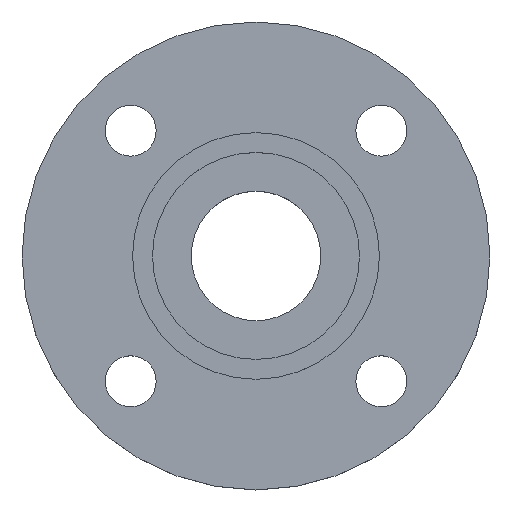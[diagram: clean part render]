
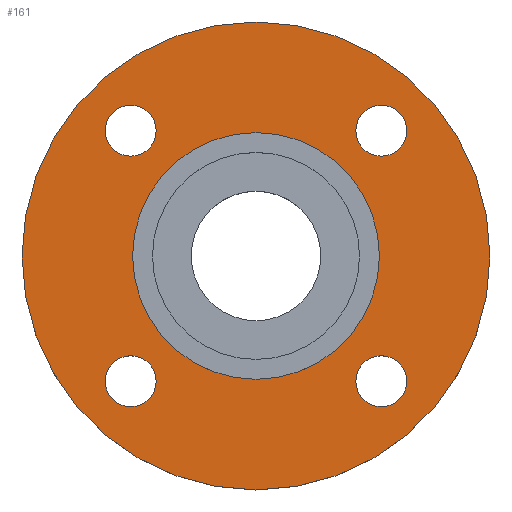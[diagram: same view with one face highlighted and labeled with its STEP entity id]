
A CAD part, top view. The second image highlights one B-rep face of the part: STEP entity #161.
In plain terms, the highlighted planar face has unit normal (0, 0, 1).
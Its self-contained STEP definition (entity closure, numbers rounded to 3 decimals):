
#1 = DIRECTION ( 'NONE',  ( 0., 0., 1. ) ) ;
#7 = AXIS2_PLACEMENT_3D ( 'NONE', #748, #1, #12 ) ;
#12 = DIRECTION ( 'NONE',  ( 1., 0., 0. ) ) ;
#16 = CIRCLE ( 'NONE', #471, 9. ) ;
#29 = EDGE_CURVE ( 'NONE', #448, #441, #451, .T. ) ;
#30 = DIRECTION ( 'NONE',  ( 1., 0., 0. ) ) ;
#33 = DIRECTION ( 'NONE',  ( 0., 0., -1. ) ) ;
#35 = CARTESIAN_POINT ( 'NONE',  ( 44.194, 44.194, -4.5 ) ) ;
#37 = CIRCLE ( 'NONE', #39, 82.5 ) ;
#39 = AXIS2_PLACEMENT_3D ( 'NONE', #768, #769, #771 ) ;
#49 = CARTESIAN_POINT ( 'NONE',  ( 53.194, -44.194, -4.5 ) ) ;
#53 = CIRCLE ( 'NONE', #399, 9. ) ;
#61 = EDGE_CURVE ( 'NONE', #615, #439, #680, .T. ) ;
#67 = CARTESIAN_POINT ( 'NONE',  ( -35.194, 44.194, -4.5 ) ) ;
#69 = DIRECTION ( 'NONE',  ( -1., 0., 0. ) ) ;
#71 = DIRECTION ( 'NONE',  ( 0., 0., -1. ) ) ;
#72 = CARTESIAN_POINT ( 'NONE',  ( 0., 0., -4.5 ) ) ;
#74 = AXIS2_PLACEMENT_3D ( 'NONE', #683, #684, #686 ) ;
#76 = EDGE_CURVE ( 'NONE', #535, #620, #551, .T. ) ;
#82 = CARTESIAN_POINT ( 'NONE',  ( 53.194, 44.194, -4.5 ) ) ;
#85 = CIRCLE ( 'NONE', #234, 82.5 ) ;
#87 = CARTESIAN_POINT ( 'NONE',  ( 43.5, 0., -4.5 ) ) ;
#88 = CARTESIAN_POINT ( 'NONE',  ( 35.194, -44.194, -4.5 ) ) ;
#111 = DIRECTION ( 'NONE',  ( 1., 0., 0. ) ) ;
#112 = AXIS2_PLACEMENT_3D ( 'NONE', #387, #395, #390 ) ;
#113 = DIRECTION ( 'NONE',  ( 0., 0., -1. ) ) ;
#114 = CARTESIAN_POINT ( 'NONE',  ( 44.194, -44.194, -4.5 ) ) ;
#116 = CARTESIAN_POINT ( 'NONE',  ( 82.5, 0., -4.5 ) ) ;
#117 = AXIS2_PLACEMENT_3D ( 'NONE', #35, #33, #30 ) ;
#153 = CIRCLE ( 'NONE', #117, 9. ) ;
#161 = ADVANCED_FACE ( 'NONE', ( #738, #739, #743, #744, #745, #746 ), #747, .T. ) ;
#162 = CARTESIAN_POINT ( 'NONE',  ( 35.194, 44.194, -4.5 ) ) ;
#177 = CARTESIAN_POINT ( 'NONE',  ( -44.194, 44.194, -4.5 ) ) ;
#180 = DIRECTION ( 'NONE',  ( 0., 0., -1. ) ) ;
#181 = DIRECTION ( 'NONE',  ( 1., 0., 0. ) ) ;
#183 = CIRCLE ( 'NONE', #419, 9. ) ;
#198 = EDGE_CURVE ( 'NONE', #442, #432, #37, .T. ) ;
#205 = CARTESIAN_POINT ( 'NONE',  ( 44.194, -44.194, -4.5 ) ) ;
#234 = AXIS2_PLACEMENT_3D ( 'NONE', #72, #71, #69 ) ;
#235 = DIRECTION ( 'NONE',  ( 0., 0., -1. ) ) ;
#238 = AXIS2_PLACEMENT_3D ( 'NONE', #114, #113, #111 ) ;
#285 = AXIS2_PLACEMENT_3D ( 'NONE', #705, #706, #707 ) ;
#291 = CARTESIAN_POINT ( 'NONE',  ( -44.194, -44.194, -4.5 ) ) ;
#293 = DIRECTION ( 'NONE',  ( 0., 0., -1. ) ) ;
#294 = DIRECTION ( 'NONE',  ( 1., 0., 0. ) ) ;
#307 = DIRECTION ( 'NONE',  ( 1., 0., 0. ) ) ;
#309 = CARTESIAN_POINT ( 'NONE',  ( -53.194, -44.194, -4.5 ) ) ;
#310 = DIRECTION ( 'NONE',  ( 1., 0., 0. ) ) ;
#314 = EDGE_CURVE ( 'NONE', #434, #634, #16, .T. ) ;
#315 = CARTESIAN_POINT ( 'NONE',  ( -82.5, 0., -4.5 ) ) ;
#317 = DIRECTION ( 'NONE',  ( 0., 0., -1. ) ) ;
#323 = CARTESIAN_POINT ( 'NONE',  ( -53.194, 44.194, -4.5 ) ) ;
#324 = CARTESIAN_POINT ( 'NONE',  ( -44.194, 44.194, -4.5 ) ) ;
#336 = CARTESIAN_POINT ( 'NONE',  ( -43.5, 0., -4.5 ) ) ;
#363 = EDGE_CURVE ( 'NONE', #441, #448, #183, .T. ) ;
#365 = CIRCLE ( 'NONE', #238, 9. ) ;
#387 = CARTESIAN_POINT ( 'NONE',  ( 0., 0., -4.5 ) ) ;
#390 = DIRECTION ( 'NONE',  ( -1., 0., 0. ) ) ;
#391 = CARTESIAN_POINT ( 'NONE',  ( -35.194, -44.194, -4.5 ) ) ;
#393 = EDGE_CURVE ( 'NONE', #634, #434, #666, .T. ) ;
#395 = DIRECTION ( 'NONE',  ( 0., 0., -1. ) ) ;
#399 = AXIS2_PLACEMENT_3D ( 'NONE', #205, #235, #307 ) ;
#404 = EDGE_CURVE ( 'NONE', #614, #658, #53, .T. ) ;
#419 = AXIS2_PLACEMENT_3D ( 'NONE', #291, #293, #294 ) ;
#432 = VERTEX_POINT ( 'NONE', #116 ) ;
#434 = VERTEX_POINT ( 'NONE', #323 ) ;
#439 = VERTEX_POINT ( 'NONE', #336 ) ;
#441 = VERTEX_POINT ( 'NONE', #309 ) ;
#442 = VERTEX_POINT ( 'NONE', #315 ) ;
#448 = VERTEX_POINT ( 'NONE', #391 ) ;
#451 = CIRCLE ( 'NONE', #74, 9. ) ;
#452 = EDGE_CURVE ( 'NONE', #439, #615, #585, .T. ) ;
#455 = EDGE_LOOP ( 'NONE', ( #532, #533 ) ) ;
#471 = AXIS2_PLACEMENT_3D ( 'NONE', #177, #180, #181 ) ;
#524 = ORIENTED_EDGE ( 'NONE', *, *, #604, .T. ) ;
#525 = ORIENTED_EDGE ( 'NONE', *, *, #404, .T. ) ;
#526 = ORIENTED_EDGE ( 'NONE', *, *, #29, .T. ) ;
#527 = ORIENTED_EDGE ( 'NONE', *, *, #363, .T. ) ;
#528 = ORIENTED_EDGE ( 'NONE', *, *, #393, .T. ) ;
#529 = ORIENTED_EDGE ( 'NONE', *, *, #314, .T. ) ;
#530 = ORIENTED_EDGE ( 'NONE', *, *, #698, .T. ) ;
#531 = ORIENTED_EDGE ( 'NONE', *, *, #76, .T. ) ;
#532 = ORIENTED_EDGE ( 'NONE', *, *, #452, .T. ) ;
#533 = ORIENTED_EDGE ( 'NONE', *, *, #61, .T. ) ;
#535 = VERTEX_POINT ( 'NONE', #162 ) ;
#536 = ORIENTED_EDGE ( 'NONE', *, *, #632, .F. ) ;
#537 = ORIENTED_EDGE ( 'NONE', *, *, #198, .F. ) ;
#551 = CIRCLE ( 'NONE', #285, 9. ) ;
#585 = CIRCLE ( 'NONE', #112, 43.5 ) ;
#604 = EDGE_CURVE ( 'NONE', #658, #614, #365, .T. ) ;
#614 = VERTEX_POINT ( 'NONE', #88 ) ;
#615 = VERTEX_POINT ( 'NONE', #87 ) ;
#620 = VERTEX_POINT ( 'NONE', #82 ) ;
#632 = EDGE_CURVE ( 'NONE', #432, #442, #85, .T. ) ;
#634 = VERTEX_POINT ( 'NONE', #67 ) ;
#642 = EDGE_LOOP ( 'NONE', ( #536, #537 ) ) ;
#646 = EDGE_LOOP ( 'NONE', ( #530, #531 ) ) ;
#650 = EDGE_LOOP ( 'NONE', ( #528, #529 ) ) ;
#651 = EDGE_LOOP ( 'NONE', ( #526, #527 ) ) ;
#658 = VERTEX_POINT ( 'NONE', #49 ) ;
#666 = CIRCLE ( 'NONE', #794, 9. ) ;
#668 = AXIS2_PLACEMENT_3D ( 'NONE', #688, #700, #701 ) ;
#671 = EDGE_LOOP ( 'NONE', ( #524, #525 ) ) ;
#680 = CIRCLE ( 'NONE', #668, 43.5 ) ;
#683 = CARTESIAN_POINT ( 'NONE',  ( -44.194, -44.194, -4.5 ) ) ;
#684 = DIRECTION ( 'NONE',  ( 0., 0., -1. ) ) ;
#686 = DIRECTION ( 'NONE',  ( 1., 0., 0. ) ) ;
#688 = CARTESIAN_POINT ( 'NONE',  ( 0., 0., -4.5 ) ) ;
#698 = EDGE_CURVE ( 'NONE', #620, #535, #153, .T. ) ;
#700 = DIRECTION ( 'NONE',  ( 0., 0., -1. ) ) ;
#701 = DIRECTION ( 'NONE',  ( -1., 0., 0. ) ) ;
#705 = CARTESIAN_POINT ( 'NONE',  ( 44.194, 44.194, -4.5 ) ) ;
#706 = DIRECTION ( 'NONE',  ( 0., 0., -1. ) ) ;
#707 = DIRECTION ( 'NONE',  ( 1., 0., 0. ) ) ;
#738 = FACE_BOUND ( 'NONE', #671, .T. ) ;
#739 = FACE_BOUND ( 'NONE', #651, .T. ) ;
#743 = FACE_BOUND ( 'NONE', #650, .T. ) ;
#744 = FACE_BOUND ( 'NONE', #646, .T. ) ;
#745 = FACE_BOUND ( 'NONE', #455, .T. ) ;
#746 = FACE_OUTER_BOUND ( 'NONE', #642, .T. ) ;
#747 = PLANE ( 'NONE',  #7 ) ;
#748 = CARTESIAN_POINT ( 'NONE',  ( 43.5, 0., -4.5 ) ) ;
#768 = CARTESIAN_POINT ( 'NONE',  ( 0., 0., -4.5 ) ) ;
#769 = DIRECTION ( 'NONE',  ( 0., 0., -1. ) ) ;
#771 = DIRECTION ( 'NONE',  ( -1., 0., 0. ) ) ;
#794 = AXIS2_PLACEMENT_3D ( 'NONE', #324, #317, #310 ) ;
